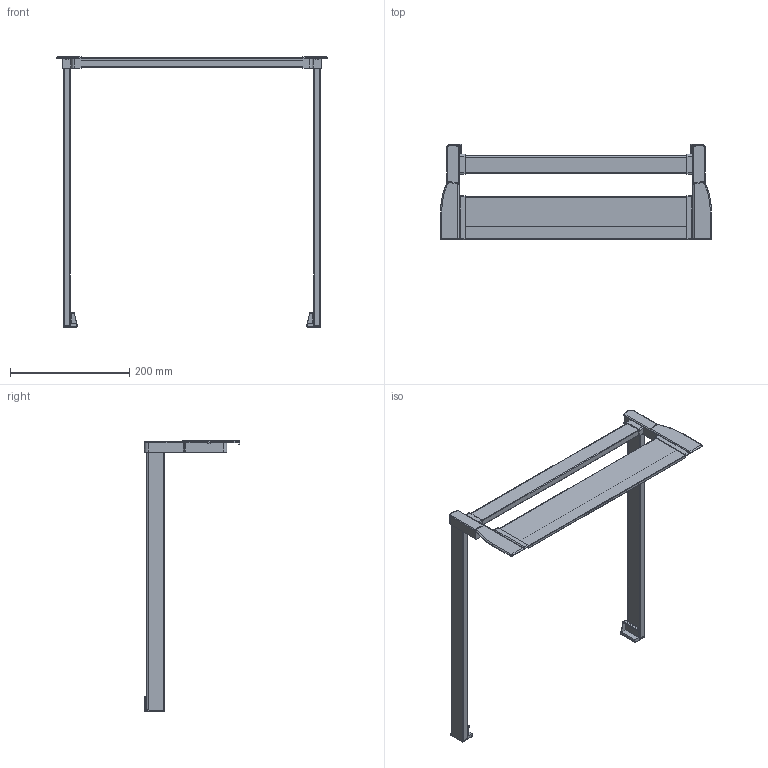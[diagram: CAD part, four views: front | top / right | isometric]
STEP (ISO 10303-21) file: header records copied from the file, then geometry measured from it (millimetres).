
FILE_DESCRIPTION (( 'STEP AP214' ), '1' );
FILE_NAME ('1_P620_NL 450_KAB 500_19er KS_.step', '2009-09-16T06:29:41', ( 'Waldinger Reinhard' ), ( 'Grass GmbH' ), 'SwSTEP 2.0', 'SolidWorks 2009', '' );
FILE_SCHEMA (( 'AUTOMOTIVE_DESIGN' ));
Length unit declared in the file: millimetre
Products named in the file (1): 1_P620_NL 450_KAB 500_19er KS_
Bounding box: 453.6 x 160.5 x 452.8 mm (x, y, z)
Volume: 832533 mm3; surface area: 199429.3 mm2
Topology: 1 solids, 1 shells, 220 faces, 578 edges, 364 vertices
Faces by surface type: plane 97, cylinder 91, torus 28, sphere 2, bspline 2
Entity records: 7004 total; most frequent: CARTESIAN_POINT 1345, DIRECTION 1198, ORIENTED_EDGE 1152, EDGE_CURVE 576, AXIS2_PLACEMENT_3D 433, VERTEX_POINT 364, VECTOR 332, LINE 332
